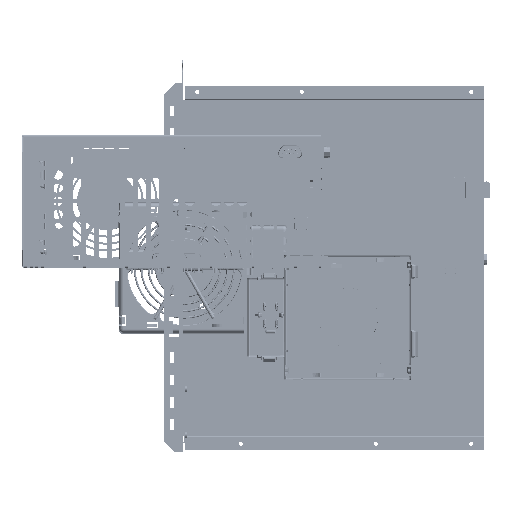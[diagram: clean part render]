
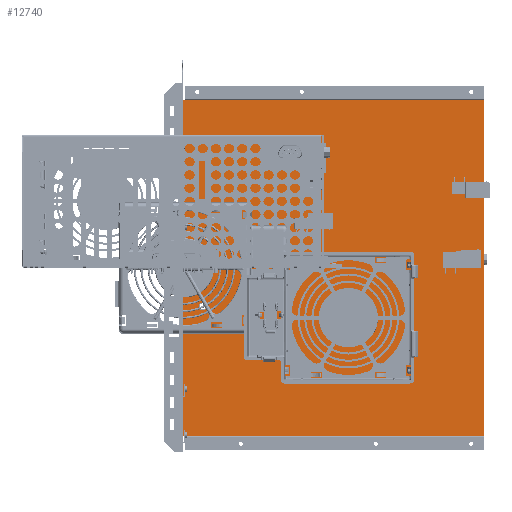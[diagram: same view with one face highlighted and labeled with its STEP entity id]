
A CAD part, front view. The second image highlights one B-rep face of the part: STEP entity #12740.
In plain terms, the highlighted planar face has unit normal (0, -1, 0).
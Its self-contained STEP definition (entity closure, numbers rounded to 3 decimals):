
#12740 = ADVANCED_FACE( '', ( #28189, #28190 ), #28191, .F. );
#28189 = FACE_BOUND( '', #54862, .T. );
#28190 = FACE_OUTER_BOUND( '', #54863, .T. );
#28191 = PLANE( '', #54864 );
#54862 = EDGE_LOOP( '', ( #96763 ) );
#54863 = EDGE_LOOP( '', ( #96764, #96765, #96766, #96767, #96768, #96769, #96770, #96771, #96772, #96773, #96774, #96775 ) );
#54864 = AXIS2_PLACEMENT_3D( '', #96776, #96777, #96778 );
#96763 = ORIENTED_EDGE( '', *, *, #129301, .T. );
#96764 = ORIENTED_EDGE( '', *, *, #129302, .F. );
#96765 = ORIENTED_EDGE( '', *, *, #122421, .F. );
#96766 = ORIENTED_EDGE( '', *, *, #129303, .T. );
#96767 = ORIENTED_EDGE( '', *, *, #116738, .F. );
#96768 = ORIENTED_EDGE( '', *, *, #120570, .T. );
#96769 = ORIENTED_EDGE( '', *, *, #129304, .F. );
#96770 = ORIENTED_EDGE( '', *, *, #127483, .T. );
#96771 = ORIENTED_EDGE( '', *, *, #129305, .T. );
#96772 = ORIENTED_EDGE( '', *, *, #113619, .F. );
#96773 = ORIENTED_EDGE( '', *, *, #129306, .F. );
#96774 = ORIENTED_EDGE( '', *, *, #127097, .F. );
#96775 = ORIENTED_EDGE( '', *, *, #124988, .T. );
#96776 = CARTESIAN_POINT( '', ( 0., 69., 140. ) );
#96777 = DIRECTION( '', ( 0., 1., 0. ) );
#96778 = DIRECTION( '', ( 0., 0., 1. ) );
#113619 = EDGE_CURVE( '', #132906, #132901, #132908, .T. );
#116738 = EDGE_CURVE( '', #138432, #138427, #138434, .F. );
#120570 = EDGE_CURVE( '', #138432, #144821, #144823, .T. );
#122421 = EDGE_CURVE( '', #147678, #147679, #147680, .T. );
#124988 = EDGE_CURVE( '', #151533, #151531, #151534, .T. );
#127097 = EDGE_CURVE( '', #151533, #154391, #154392, .T. );
#127483 = EDGE_CURVE( '', #154962, #154960, #154963, .T. );
#129301 = EDGE_CURVE( '', #157282, #157282, #157283, .T. );
#129302 = EDGE_CURVE( '', #147679, #151531, #157284, .T. );
#129303 = EDGE_CURVE( '', #147678, #138427, #157285, .T. );
#129304 = EDGE_CURVE( '', #154962, #144821, #157286, .T. );
#129305 = EDGE_CURVE( '', #154960, #132901, #157287, .T. );
#129306 = EDGE_CURVE( '', #154391, #132906, #157288, .F. );
#132901 = VERTEX_POINT( '', #161396 );
#132906 = VERTEX_POINT( '', #161403 );
#132908 = LINE( '', #161406, #161407 );
#138427 = VERTEX_POINT( '', #171600 );
#138432 = VERTEX_POINT( '', #171607 );
#138434 = LINE( '', #171610, #171611 );
#144821 = VERTEX_POINT( '', #183497 );
#144823 = LINE( '', #183500, #183501 );
#147678 = VERTEX_POINT( '', #189863 );
#147679 = VERTEX_POINT( '', #189864 );
#147680 = LINE( '', #189865, #189866 );
#151531 = VERTEX_POINT( '', #198475 );
#151533 = VERTEX_POINT( '', #198478 );
#151534 = LINE( '', #198479, #198480 );
#154391 = VERTEX_POINT( '', #204297 );
#154392 = LINE( '', #204298, #204299 );
#154960 = VERTEX_POINT( '', #205119 );
#154962 = VERTEX_POINT( '', #205122 );
#154963 = LINE( '', #205123, #205124 );
#157282 = VERTEX_POINT( '', #209943 );
#157283 = CIRCLE( '', #209944, 3.05 );
#157284 = LINE( '', #209945, #209946 );
#157285 = LINE( '', #209947, #209948 );
#157286 = LINE( '', #209949, #209950 );
#157287 = LINE( '', #209951, #209952 );
#157288 = LINE( '', #209953, #209954 );
#161396 = CARTESIAN_POINT( '', ( 1.3, 69., -127.5 ) );
#161403 = CARTESIAN_POINT( '', ( 1.3, 69., -127.459 ) );
#161406 = CARTESIAN_POINT( '', ( 1.3, 69., -138. ) );
#161407 = VECTOR( '', #218249, 1000. );
#171600 = CARTESIAN_POINT( '', ( 2.1, 69., 127.459 ) );
#171607 = CARTESIAN_POINT( '', ( 1.3, 69., 127.459 ) );
#171610 = CARTESIAN_POINT( '', ( 1.3, 69., 127.459 ) );
#171611 = VECTOR( '', #221745, 1000. );
#183497 = CARTESIAN_POINT( '', ( 1.3, 69., 127.5 ) );
#183500 = CARTESIAN_POINT( '', ( 1.3, 69., 140. ) );
#183501 = VECTOR( '', #226257, 1000. );
#189863 = CARTESIAN_POINT( '', ( 2.1, 69., 127.5 ) );
#189864 = CARTESIAN_POINT( '', ( 229., 69., 127.5 ) );
#189865 = CARTESIAN_POINT( '', ( 1.3, 69., 127.5 ) );
#189866 = VECTOR( '', #228205, 1000. );
#198475 = CARTESIAN_POINT( '', ( 229., 69., -127.5 ) );
#198478 = CARTESIAN_POINT( '', ( 2.1, 69., -127.5 ) );
#198479 = CARTESIAN_POINT( '', ( 0., 69., -127.5 ) );
#198480 = VECTOR( '', #231005, 1000. );
#204297 = CARTESIAN_POINT( '', ( 2.1, 69., -127.459 ) );
#204298 = CARTESIAN_POINT( '', ( 2.1, 69., -127.459 ) );
#204299 = VECTOR( '', #233037, 1000. );
#205119 = CARTESIAN_POINT( '', ( 1., 69., -127.5 ) );
#205122 = CARTESIAN_POINT( '', ( 1., 69., 127.5 ) );
#205123 = CARTESIAN_POINT( '', ( 1., 69., 140. ) );
#205124 = VECTOR( '', #233595, 1000. );
#209943 = CARTESIAN_POINT( '', ( 15.6, 69., -26.2 ) );
#209944 = AXIS2_PLACEMENT_3D( '', #235327, #235328, #235329 );
#209945 = CARTESIAN_POINT( '', ( 229., 69., 140. ) );
#209946 = VECTOR( '', #235330, 1000. );
#209947 = CARTESIAN_POINT( '', ( 2.1, 69., 140. ) );
#209948 = VECTOR( '', #235331, 1000. );
#209949 = CARTESIAN_POINT( '', ( 288.807, 69., 127.5 ) );
#209950 = VECTOR( '', #235332, 1000. );
#209951 = CARTESIAN_POINT( '', ( 0., 69., -127.5 ) );
#209952 = VECTOR( '', #235333, 1000. );
#209953 = CARTESIAN_POINT( '', ( 244., 69., -127.459 ) );
#209954 = VECTOR( '', #235334, 1000. );
#218249 = DIRECTION( '', ( 0., 0., -1. ) );
#221745 = DIRECTION( '', ( -1., 0., 0. ) );
#226257 = DIRECTION( '', ( 0., 0., 1. ) );
#228205 = DIRECTION( '', ( 1., 0., 0. ) );
#231005 = DIRECTION( '', ( 1., 0., 0. ) );
#233037 = DIRECTION( '', ( 0., 0., 1. ) );
#233595 = DIRECTION( '', ( 0., 0., -1. ) );
#235327 = CARTESIAN_POINT( '', ( 15.6, 69., -29.25 ) );
#235328 = DIRECTION( '', ( 0., 1., 0. ) );
#235329 = DIRECTION( '', ( 0., 0., 1. ) );
#235330 = DIRECTION( '', ( 0., 0., -1. ) );
#235331 = DIRECTION( '', ( 0., 0., -1. ) );
#235332 = DIRECTION( '', ( 1., 0., 0. ) );
#235333 = DIRECTION( '', ( 1., 0., 0. ) );
#235334 = DIRECTION( '', ( 1., 0., 0. ) );
